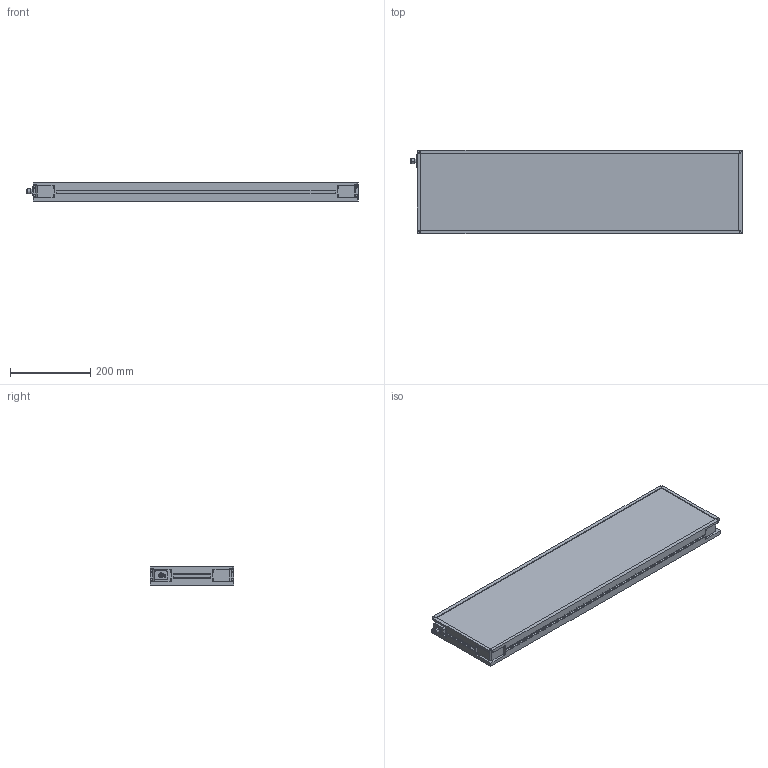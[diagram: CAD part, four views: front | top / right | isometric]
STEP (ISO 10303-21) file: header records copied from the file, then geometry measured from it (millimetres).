
FILE_DESCRIPTION (( 'STEP AP214' ), '1' );
FILE_NAME ('MBACK-xxxx-xxx-M1_CLIENT200x800.STEP', '2022-03-31T15:59:23', ( '' ), ( '' ), 'SwSTEP 2.0', 'SolidWorks 2020', '' );
FILE_SCHEMA (( 'AUTOMOTIVE_DESIGN' ));
Length unit declared in the file: millimetre
Products named in the file (1): MBACK-xxxx-xxx-M1_CLIENT200x800
Bounding box: 825.9 x 208 x 45.5 mm (x, y, z)
Volume: 6931971.6 mm3; surface area: 470895.3 mm2
Topology: 1 solids, 1 shells, 442 faces, 1144 edges, 760 vertices
Faces by surface type: plane 249, cylinder 105, bspline 80, cone 8
Entity records: 17236 total; most frequent: CARTESIAN_POINT 6699, ORIENTED_EDGE 2288, DIRECTION 1936, EDGE_CURVE 1144, VERTEX_POINT 760, LINE 758, VECTOR 758, AXIS2_PLACEMENT_3D 589
